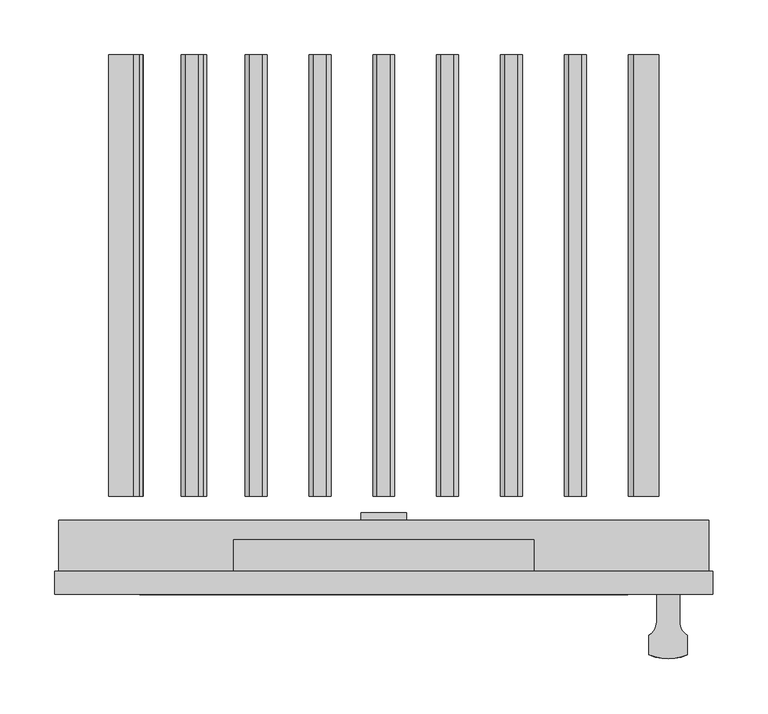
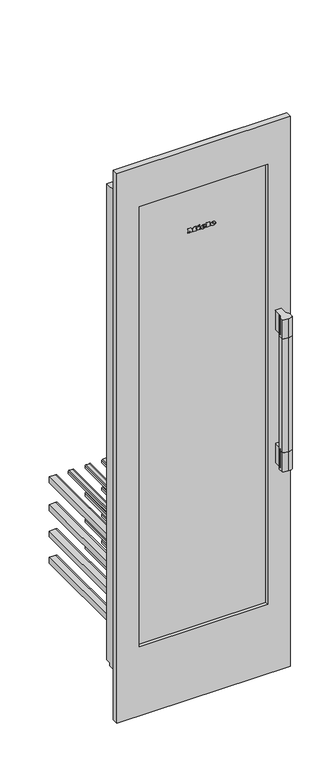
"""IFC4 building model written with IfcOpenShell, lengths in millimetres: proxy geometry, 11503640_USA_KWT2612SF : 36261215_USA_11503640_KWT2612SF."""

from ifc_helpers import new_model, si_unit, point, frame, frame_2d, origin, place, context, project, spatial, polyline, circle_curve, ellipse_curve, trimmed, segment, composite_curve, outline, extrude, faceted_brep, source, transform, mapped, element, save
from ifc_brep_helpers import plane_surface, cylinder_surface, revolved_surface, extruded_surface, advanced_brep


def specialty_equipment_349ab82d(model_context):
    return source(origin(), model_context, "Body", "SolidModel", [
        faceted_brep([(21.0, 75.0, 229.0), (6.5, 75.0, 229.0), (6.5, 75.0, 98.0), (-6.5, 75.0, 98.0), (-6.5, 75.0, 229.0), (-21.0, 75.0, 229.0), (-21.0, 75.0, 267.0), (21.0, 75.0, 267.0), (-21.0, 21.0, 270.0), (-21.0, 21.0, 229.0), (-6.5, 21.0, 229.0), (-6.5, 21.0, 98.0), (6.5, 21.0, 98.0), (6.5, 21.0, 229.0), (21.0, 21.0, 229.0), (21.0, 21.0, 270.0), (21.0, 68.0, 270.0), (-21.0, 68.0, 270.0), (21.0, 68.0, 267.0), (-21.0, 68.0, 267.0)], [[[0, 1, 2, 3, 4, 5, 6, 7]], [[8, 9, 10, 11, 12, 13, 14, 15]], [[8, 15, 16, 17]], [[15, 14, 0, 7, 18, 16]], [[1, 0, 14, 13]], [[2, 1, 13, 12]], [[3, 2, 12, 11]], [[4, 3, 11, 10]], [[5, 4, 10, 9]], [[9, 8, 17, 19, 6, 5]], [[19, 18, 7, 6]], [[18, 19, 17, 16]]]),
        extrude(outline(polyline([(-223.5, 32.0), (223.5, 32.0), (223.5, 12.0), (-223.5, 12.0), (-223.5, 32.0)])), frame((0.0, 0.0, 344.0), z_axis=(0.0, 0.0, 1.0), x_axis=(1.0, 0.0, 0.0)), (0.0, 0.0, 1.0), 1620.0),
        extrude(outline(polyline([(2113.0, 301.5), (2113.0, -301.5), (90.0, -301.5), (90.0, 301.5), (2113.0, 301.5)]), holes=[polyline([(1964.0, 223.5), (344.0, 223.5), (344.0, -223.5), (1964.0, -223.5), (1964.0, 223.5)])]), frame((0.0, 0.0, 0.0), z_axis=(0.0, 1.0, 0.0), x_axis=(0.0, 0.0, 1.0)), (0.0, 0.0, 1.0), 21.0),
        extrude(outline(polyline([(-137.5, 50.0), (137.5, 50.0), (137.5, 21.0), (-137.5, 21.0), (-137.5, 50.0)])), frame((0.0, 0.0, 2034.0), z_axis=(0.0, 0.0, 1.0), x_axis=(1.0, 0.0, 0.0)), (0.0, 0.0, 1.0), 56.0),
        faceted_brep([(-297.5, 68.0, 2034.0), (-297.5, 68.0, 281.0), (-297.5, 50.0, 281.0), (-297.5, 50.0, 270.0), (-297.5, 21.0, 270.0), (-297.5, 21.0, 2034.0), (297.5, 68.0, 2034.0), (297.5, 21.0, 2034.0), (297.5, 21.0, 270.0), (297.5, 50.0, 270.0), (297.5, 50.0, 281.0), (297.5, 68.0, 281.0), (223.5, 21.0, 1964.0), (223.5, 21.0, 344.0), (-223.5, 21.0, 344.0), (-223.5, 21.0, 1964.0), (223.5, 68.0, 344.0), (223.5, 68.0, 1964.0), (-223.5, 68.0, 1964.0), (-223.5, 68.0, 344.0)], [[[0, 1, 2, 3, 4, 5]], [[6, 7, 8, 9, 10, 11]], [[0, 5, 7, 6]], [[5, 4, 8, 7], [12, 13, 14, 15]], [[4, 3, 9, 8]], [[3, 2, 10, 9]], [[2, 1, 11, 10]], [[1, 0, 6, 11], [16, 17, 18, 19]], [[12, 17, 16, 13]], [[13, 16, 19, 14]], [[14, 19, 18, 15]], [[17, 12, 15, 18]]]),
        extrude(outline(composite_curve([segment(trimmed(circle_curve(frame_2d((234.4285714, -24.4390599)), 15.5714286), [point((243.0, -37.4390599))], [point((250.0, -24.4390599))], True, "CARTESIAN"), True, "CONTINUOUS"), segment(polyline([(250.0, -24.4390599), (250.0, 0.0), (271.0, 0.0), (271.0, -24.4390599)]), True, "CONTINUOUS"), segment(trimmed(circle_curve(frame_2d((286.5714286, -24.4390599)), 15.5714286), [point((271.0, -24.4390599))], [point((278.0, -37.4390599))], True, "CARTESIAN"), True, "CONTINUOUS"), segment(polyline([(278.0, -37.4390599), (278.0, -55.0)]), True, "CONTINUOUS"), segment(trimmed(circle_curve(frame_2d((260.5, -18.71875)), 40.28125), [point((278.0, -55.0))], [point((260.5, -59.0))], False, "CARTESIAN"), True, "CONTINUOUS"), segment(trimmed(circle_curve(frame_2d((260.5, -18.71875)), 40.28125), [point((260.5, -59.0))], [point((243.0, -55.0))], False, "CARTESIAN"), True, "CONTINUOUS"), segment(polyline([(243.0, -55.0), (243.0, -37.4390599)]), True, "CONTINUOUS")], self_intersect=False)), frame((0.0, 0.0, 858.0), z_axis=(0.0, 0.0, 1.0), x_axis=(1.0, 0.0, 0.0)), (0.0, 0.0, 1.0), 70.0),
        extrude(outline(composite_curve([segment(trimmed(circle_curve(frame_2d((234.4285714, -24.4390599)), 15.5714286), [point((243.0, -37.4390599))], [point((250.0, -24.4390599))], True, "CARTESIAN"), True, "CONTINUOUS"), segment(polyline([(250.0, -24.4390599), (250.0, 0.0), (271.0, 0.0), (271.0, -24.4390599)]), True, "CONTINUOUS"), segment(trimmed(circle_curve(frame_2d((286.5714286, -24.4390599)), 15.5714286), [point((271.0, -24.4390599))], [point((278.0, -37.4390599))], True, "CARTESIAN"), True, "CONTINUOUS"), segment(polyline([(278.0, -37.4390599), (278.0, -55.0)]), True, "CONTINUOUS"), segment(trimmed(circle_curve(frame_2d((260.5, -18.71875)), 40.28125), [point((278.0, -55.0))], [point((260.5, -59.0))], False, "CARTESIAN"), True, "CONTINUOUS"), segment(trimmed(circle_curve(frame_2d((260.5, -18.71875)), 40.28125), [point((260.5, -59.0))], [point((243.0, -55.0))], False, "CARTESIAN"), True, "CONTINUOUS"), segment(polyline([(243.0, -55.0), (243.0, -37.4390599)]), True, "CONTINUOUS")], self_intersect=False)), frame((0.0, 0.0, 1348.0), z_axis=(0.0, 0.0, 1.0), x_axis=(1.0, 0.0, 0.0)), (0.0, 0.0, 1.0), 70.0),
        extrude(outline(composite_curve([segment(trimmed(circle_curve(frame_2d((234.4285714, -24.4390599)), 15.5714286), [point((243.0, -37.4390599))], [point((244.8599688, -36.0))], True, "CARTESIAN"), True, "CONTINUOUS"), segment(polyline([(244.8599688, -36.0), (276.1400312, -36.0)]), True, "CONTINUOUS"), segment(trimmed(circle_curve(frame_2d((286.5714286, -24.4390599)), 15.5714286), [point((276.1400312, -36.0))], [point((278.0, -37.4390599))], True, "CARTESIAN"), True, "CONTINUOUS"), segment(polyline([(278.0, -37.4390599), (278.0, -55.0)]), True, "CONTINUOUS"), segment(trimmed(circle_curve(frame_2d((260.5, -18.71875)), 40.28125), [point((278.0, -55.0))], [point((260.5, -59.0))], False, "CARTESIAN"), True, "CONTINUOUS"), segment(trimmed(circle_curve(frame_2d((260.5, -18.71875)), 40.28125), [point((260.5, -59.0))], [point((243.0, -55.0))], False, "CARTESIAN"), True, "CONTINUOUS"), segment(polyline([(243.0, -55.0), (243.0, -37.4390599)]), True, "CONTINUOUS")], self_intersect=False)), frame((0.0, 0.0, 928.0), z_axis=(0.0, 0.0, 1.0), x_axis=(1.0, 0.0, 0.0)), (0.0, 0.0, 1.0), 420.0),
        advanced_brep(
        [(38.22, 11.0, 1801.792), (38.22, 11.0, 1803.408), (48.924, 11.0, 1803.408), (30.3, 11.0, 1803.408), (34.7, 11.0, 1798.0), (48.652, 11.0, 1801.792), (43.82, 11.0, 1801.792), (40.012, 11.0, 1800.0), (38.22, 11.0, 1805.456), (38.22, 11.0, 1807.2), (40.956, 11.0, 1807.2), (40.956, 11.0, 1805.456), (38.22, 12.0, 1801.792), (40.012, 12.0, 1800.0), (43.82, 12.0, 1801.792), (48.652, 12.0, 1801.792), (34.7, 12.0, 1798.0), (30.3, 12.0, 1803.408), (48.924, 12.0, 1803.408), (38.22, 12.0, 1803.408), (38.22, 12.0, 1805.456), (40.956, 12.0, 1805.456), (40.956, 12.0, 1807.2), (38.22, 12.0, 1807.2)],
        [
            (0, 1),
            (1, 2),
            (2, 3, ellipse_curve(frame((39.612, 11.0, 1803.408), z_axis=(0.0, -1.0, 0.0), x_axis=(-1.0, 0.0, 0.0)), 9.312, 7.696)),
            (3, 4, circle_curve(frame((36.4920873, 11.0, 1803.952), z_axis=(0.0, -1.0, 0.0), x_axis=(0.0, 0.0, -1.0)), 6.2159376)),
            (4, 5, circle_curve(frame((39.4255872, 11.0, 1808.176), z_axis=(0.0, -1.0, 0.0), x_axis=(0.0, 0.0, -1.0)), 11.2197215)),
            (5, 6),
            (6, 7, circle_curve(frame((40.7941176, 11.0, 1803.28), z_axis=(0.0, 1.0, 0.0), x_axis=(0.0, 0.0, -1.0)), 3.3719591)),
            (7, 0, circle_curve(frame((40.012, 11.0, 1801.792), z_axis=(0.0, 1.0, 0.0), x_axis=(0.0, 0.0, -1.0)), 1.792)),
            (8, 9),
            (9, 10, circle_curve(frame((39.588, 11.0, 1807.2), z_axis=(0.0, 1.0, 0.0), x_axis=(0.0, 0.0, -1.0)), 1.368)),
            (10, 11),
            (11, 8),
            (12, 13, circle_curve(frame((40.012, 12.0, 1801.792), z_axis=(0.0, -1.0, 0.0), x_axis=(0.0, 0.0, -1.0)), 1.792)),
            (13, 14, circle_curve(frame((40.7941176, 12.0, 1803.28), z_axis=(0.0, -1.0, 0.0), x_axis=(0.0, 0.0, -1.0)), 3.3719591)),
            (14, 15),
            (15, 16, circle_curve(frame((39.4255872, 12.0, 1808.176), z_axis=(0.0, 1.0, 0.0), x_axis=(0.0, 0.0, -1.0)), 11.2197215)),
            (16, 17, circle_curve(frame((36.4920873, 12.0, 1803.952), z_axis=(0.0, 1.0, 0.0), x_axis=(0.0, 0.0, -1.0)), 6.2159376)),
            (17, 18, ellipse_curve(frame((39.612, 12.0, 1803.408), z_axis=(0.0, 1.0, 0.0), x_axis=(-1.0, 0.0, 0.0)), 9.312, 7.696)),
            (18, 19),
            (19, 12),
            (20, 21),
            (21, 22),
            (22, 23, circle_curve(frame((39.588, 12.0, 1807.2), z_axis=(0.0, -1.0, 0.0), x_axis=(0.0, 0.0, -1.0)), 1.368)),
            (23, 20),
            (0, 12),
            (19, 1),
            (18, 2),
            (5, 15),
            (14, 6),
            (17, 3),
            (13, 7),
            (16, 4),
            (8, 20),
            (23, 9),
            (22, 10),
            (21, 11),
        ],
        [
            plane_surface(frame((38.22, 11.0, 1803.408), z_axis=(0.0, -1.0, 0.0), x_axis=(0.0, 0.0, 1.0))),
            plane_surface(frame((38.22, 12.0, 1803.408), z_axis=(0.0, 1.0, 0.0), x_axis=(0.0, 0.0, -1.0))),
            plane_surface(frame((38.22, 11.0, 1801.792), z_axis=(1.0, 0.0, 0.0), x_axis=(0.0, 1.0, 0.0))),
            plane_surface(frame((38.22, 11.0, 1803.408), z_axis=(0.0, 0.0, -1.0), x_axis=(0.0, 1.0, 0.0))),
            plane_surface(frame((48.652, 11.0, 1801.792), z_axis=(0.0, 0.0, 1.0), x_axis=(0.0, 1.0, 0.0))),
            extruded_surface(trimmed(ellipse_curve(frame((39.612, 13.0, 1803.408), z_axis=(0.0, -1.0, 0.0), x_axis=(-1.0, 0.0, 0.0)), 9.312, 7.696), [point((48.924, 13.0, 1803.408))], [point((30.3, 13.0, 1803.408))], True, "CARTESIAN"), (0.0, -1.0, 0.0), 1.0),
            revolved_surface(polyline([(40.7941176, 12.0, 1799.9080409), (40.7941176, 11.0, 1799.9080409)]), (40.7941176, 12.0, 1803.28), (0.0, 1.0, 0.0)),
            revolved_surface(polyline([(40.012, 12.0, 1800.0), (40.012, 11.0, 1800.0)]), (40.012, 12.0, 1801.792), (0.0, 1.0, 0.0)),
            cylinder_surface(frame((36.4920873, 12.0, 1803.952), z_axis=(0.0, -1.0, 0.0), x_axis=(0.0, 0.0, -1.0)), 6.2159376),
            cylinder_surface(frame((39.4255872, 12.0, 1808.176), z_axis=(0.0, -1.0, 0.0), x_axis=(0.0, 0.0, -1.0)), 11.2197215),
            plane_surface(frame((38.22, 11.0, 1805.456), z_axis=(1.0, 0.0, 0.0), x_axis=(0.0, 1.0, 0.0))),
            revolved_surface(polyline([(39.588, 12.0, 1805.832), (39.588, 11.0, 1805.832)]), (39.588, 12.0, 1807.2), (0.0, 1.0, 0.0)),
            plane_surface(frame((40.956, 11.0, 1807.2), z_axis=(-1.0, 0.0, 0.0), x_axis=(0.0, 1.0, 0.0))),
            plane_surface(frame((40.956, 11.0, 1805.456), z_axis=(0.0, 0.0, 1.0), x_axis=(0.0, 1.0, 0.0))),
        ],
        [
            (0, [[1, 2, 3, 4, 5, 6, 7, 8], [9, 10, 11, 12]]),
            (1, [[13, 14, 15, 16, 17, 18, 19, 20], [21, 22, 23, 24]]),
            (2, [[-1, 25, -20, 26]]),
            (3, [[-2, -26, -19, 27]]),
            (4, [[-6, 28, -15, 29]]),
            (5, [[-3, -27, -18, 30]]),
            (6, [[-7, -29, -14, 31]]),
            (7, [[-8, -31, -13, -25]]),
            (8, [[-4, -30, -17, 32]]),
            (9, [[-5, -32, -16, -28]]),
            (10, [[-9, 33, -24, 34]]),
            (11, [[-10, -34, -23, 35]]),
            (12, [[-11, -35, -22, 36]]),
            (13, [[-12, -36, -21, -33]]),
        ],
    ),
        advanced_brep(
        [(4.828, 11.0, 1801.792), (4.828, 11.0, 1803.408), (15.532, 11.0, 1803.408), (-3.092, 11.0, 1803.408), (1.308, 11.0, 1798.0), (15.26, 11.0, 1801.792), (10.428, 11.0, 1801.792), (6.62, 11.0, 1800.0), (4.828, 11.0, 1805.456), (4.828, 11.0, 1807.2), (7.564, 11.0, 1807.2), (7.564, 11.0, 1805.456), (4.828, 12.0, 1801.792), (6.62, 12.0, 1800.0), (10.428, 12.0, 1801.792), (15.26, 12.0, 1801.792), (1.308, 12.0, 1798.0), (-3.092, 12.0, 1803.408), (15.532, 12.0, 1803.408), (4.828, 12.0, 1803.408), (4.828, 12.0, 1805.456), (7.564, 12.0, 1805.456), (7.564, 12.0, 1807.2), (4.828, 12.0, 1807.2)],
        [
            (0, 1),
            (1, 2),
            (2, 3, ellipse_curve(frame((6.22, 11.0, 1803.408), z_axis=(0.0, -1.0, 0.0), x_axis=(-1.0, 0.0, 0.0)), 9.312, 7.696)),
            (3, 4, circle_curve(frame((3.1000873, 11.0, 1803.952), z_axis=(0.0, -1.0, 0.0), x_axis=(0.0, 0.0, -1.0)), 6.2159376)),
            (4, 5, circle_curve(frame((6.0335872, 11.0, 1808.176), z_axis=(0.0, -1.0, 0.0), x_axis=(0.0, 0.0, -1.0)), 11.2197215)),
            (5, 6),
            (6, 7, circle_curve(frame((7.4021176, 11.0, 1803.28), z_axis=(0.0, 1.0, 0.0), x_axis=(0.0, 0.0, -1.0)), 3.3719591)),
            (7, 0, circle_curve(frame((6.62, 11.0, 1801.792), z_axis=(0.0, 1.0, 0.0), x_axis=(0.0, 0.0, -1.0)), 1.792)),
            (8, 9),
            (9, 10, circle_curve(frame((6.196, 11.0, 1807.2), z_axis=(0.0, 1.0, 0.0), x_axis=(0.0, 0.0, -1.0)), 1.368)),
            (10, 11),
            (11, 8),
            (12, 13, circle_curve(frame((6.62, 12.0, 1801.792), z_axis=(0.0, -1.0, 0.0), x_axis=(0.0, 0.0, -1.0)), 1.792)),
            (13, 14, circle_curve(frame((7.4021176, 12.0, 1803.28), z_axis=(0.0, -1.0, 0.0), x_axis=(0.0, 0.0, -1.0)), 3.3719591)),
            (14, 15),
            (15, 16, circle_curve(frame((6.0335872, 12.0, 1808.176), z_axis=(0.0, 1.0, 0.0), x_axis=(0.0, 0.0, -1.0)), 11.2197215)),
            (16, 17, circle_curve(frame((3.1000873, 12.0, 1803.952), z_axis=(0.0, 1.0, 0.0), x_axis=(0.0, 0.0, -1.0)), 6.2159376)),
            (17, 18, ellipse_curve(frame((6.22, 12.0, 1803.408), z_axis=(0.0, 1.0, 0.0), x_axis=(-1.0, 0.0, 0.0)), 9.312, 7.696)),
            (18, 19),
            (19, 12),
            (20, 21),
            (21, 22),
            (22, 23, circle_curve(frame((6.196, 12.0, 1807.2), z_axis=(0.0, -1.0, 0.0), x_axis=(0.0, 0.0, -1.0)), 1.368)),
            (23, 20),
            (0, 12),
            (19, 1),
            (18, 2),
            (5, 15),
            (14, 6),
            (17, 3),
            (13, 7),
            (16, 4),
            (8, 20),
            (23, 9),
            (22, 10),
            (21, 11),
        ],
        [
            plane_surface(frame((4.828, 11.0, 1803.408), z_axis=(0.0, -1.0, 0.0), x_axis=(0.0, 0.0, 1.0))),
            plane_surface(frame((4.828, 12.0, 1803.408), z_axis=(0.0, 1.0, 0.0), x_axis=(0.0, 0.0, -1.0))),
            plane_surface(frame((4.828, 11.0, 1801.792), z_axis=(1.0, 0.0, 0.0), x_axis=(0.0, 1.0, 0.0))),
            plane_surface(frame((4.828, 11.0, 1803.408), z_axis=(0.0, 0.0, -1.0), x_axis=(0.0, 1.0, 0.0))),
            plane_surface(frame((15.26, 11.0, 1801.792), z_axis=(0.0, 0.0, 1.0), x_axis=(0.0, 1.0, 0.0))),
            extruded_surface(trimmed(ellipse_curve(frame((6.22, 13.0, 1803.408), z_axis=(0.0, -1.0, 0.0), x_axis=(-1.0, 0.0, 0.0)), 9.312, 7.696), [point((15.532, 13.0, 1803.408))], [point((-3.092, 13.0, 1803.408))], True, "CARTESIAN"), (0.0, -1.0, 0.0), 1.0),
            revolved_surface(polyline([(7.4021176, 12.0, 1799.9080409), (7.4021176, 11.0, 1799.9080409)]), (7.4021176, 12.0, 1803.28), (0.0, 1.0, 0.0)),
            revolved_surface(polyline([(6.62, 12.0, 1800.0), (6.62, 11.0, 1800.0)]), (6.62, 12.0, 1801.792), (0.0, 1.0, 0.0)),
            cylinder_surface(frame((3.1000873, 12.0, 1803.952), z_axis=(0.0, -1.0, 0.0), x_axis=(0.0, 0.0, -1.0)), 6.2159376),
            cylinder_surface(frame((6.0335872, 12.0, 1808.176), z_axis=(0.0, -1.0, 0.0), x_axis=(0.0, 0.0, -1.0)), 11.2197215),
            plane_surface(frame((4.828, 11.0, 1805.456), z_axis=(1.0, 0.0, 0.0), x_axis=(0.0, 1.0, 0.0))),
            revolved_surface(polyline([(6.196, 12.0, 1805.832), (6.196, 11.0, 1805.832)]), (6.196, 12.0, 1807.2), (0.0, 1.0, 0.0)),
            plane_surface(frame((7.564, 11.0, 1807.2), z_axis=(-1.0, 0.0, 0.0), x_axis=(0.0, 1.0, 0.0))),
            plane_surface(frame((7.564, 11.0, 1805.456), z_axis=(0.0, 0.0, 1.0), x_axis=(0.0, 1.0, 0.0))),
        ],
        [
            (0, [[1, 2, 3, 4, 5, 6, 7, 8], [9, 10, 11, 12]]),
            (1, [[13, 14, 15, 16, 17, 18, 19, 20], [21, 22, 23, 24]]),
            (2, [[-1, 25, -20, 26]]),
            (3, [[-2, -26, -19, 27]]),
            (4, [[-6, 28, -15, 29]]),
            (5, [[-3, -27, -18, 30]]),
            (6, [[-7, -29, -14, 31]]),
            (7, [[-8, -31, -13, -25]]),
            (8, [[-4, -30, -17, 32]]),
            (9, [[-5, -32, -16, -28]]),
            (10, [[-9, 33, -24, 34]]),
            (11, [[-10, -34, -23, 35]]),
            (12, [[-11, -35, -22, 36]]),
            (13, [[-12, -36, -21, -33]]),
        ],
    ),
        extrude(outline(polyline([(1813.056, -12.66), (1810.464, -11.444), (1812.992, -6.02), (1815.584, -7.22), (1813.056, -12.66)])), frame((0.0, 11.0, 0.0), z_axis=(0.0, 1.0, 0.0), x_axis=(0.0, 0.0, 1.0)), (0.0, 0.0, 1.0), 1.0),
        extrude(outline(polyline([(1810.112, -16.612), (1807.248, -16.612), (1807.248, -14.708), (1800.688, -14.708), (1800.688, -16.612), (1798.0, -16.612), (1798.0, -3.988), (1800.688, -3.988), (1800.688, -5.844), (1810.112, -5.844), (1810.112, -16.612)])), frame((0.0, 11.0, 0.0), z_axis=(0.0, 1.0, 0.0), x_axis=(0.0, 0.0, 1.0)), (0.0, 0.0, 1.0), 1.0),
        extrude(outline(polyline([(1811.392, 16.428), (1811.392, 18.348), (1800.688, 18.348), (1800.688, 16.428), (1798.0, 16.428), (1798.0, 29.404), (1800.688, 29.404), (1800.688, 27.436), (1814.0, 27.436), (1814.0, 16.428), (1811.392, 16.428)])), frame((0.0, 11.0, 0.0), z_axis=(0.0, 1.0, 0.0), x_axis=(0.0, 0.0, 1.0)), (0.0, 0.0, 1.0), 1.0),
        extrude(outline(polyline([(1811.392, -48.5), (1811.392, -46.564), (1800.688, -46.564), (1800.688, -48.5), (1798.0, -48.5), (1798.0, -41.46), (1800.688, -41.46), (1800.688, -43.38), (1807.4431247, -43.38), (1798.0, -36.228), (1807.8152223, -29.044), (1800.688, -29.044), (1800.688, -31.012), (1798.0, -31.012), (1798.0, -18.244), (1800.688, -18.244), (1800.688, -20.276), (1811.392, -20.276), (1811.392, -18.244), (1814.0, -18.244), (1814.0, -27.988), (1808.0, -32.66), (1814.0, -37.348), (1814.0, -48.5), (1811.392, -48.5)])), frame((0.0, 11.0, 0.0), z_axis=(0.0, 1.0, 0.0), x_axis=(0.0, 0.0, 1.0)), (0.0, 0.0, 1.0), 1.0),
        extrude(outline(composite_curve([segment(polyline([(384.0, -252.0), (362.0, -252.0), (362.0, -229.0)]), True, "CONTINUOUS"), segment(trimmed(circle_curve(frame_2d((370.425484, -229.0)), 8.425484), [point((362.0, -229.0))], [point((370.425484, -220.574516))], False, "CARTESIAN"), True, "CONTINUOUS"), segment(polyline([(370.425484, -220.574516), (375.574516, -220.574516)]), True, "CONTINUOUS"), segment(trimmed(circle_curve(frame_2d((375.574516, -229.0)), 8.425484), [point((375.574516, -220.574516))], [point((384.0, -229.0))], False, "CARTESIAN"), True, "CONTINUOUS"), segment(polyline([(384.0, -229.0), (384.0, -252.0)]), True, "CONTINUOUS")], self_intersect=False)), frame((0.0, 90.0, 0.0), z_axis=(0.0, 1.0, 0.0), x_axis=(0.0, 0.0, 1.0)), (0.0, 0.0, 1.0), 404.0),
        extrude(outline(composite_curve([segment(polyline([(380.0, -182.074516), (372.039218, -182.074516), (372.039218, -162.074516), (380.0, -162.074516)]), True, "CONTINUOUS"), segment(trimmed(circle_curve(frame_2d((380.0, -166.074516)), 4.0), [point((380.0, -162.074516))], [point((384.0, -166.074516))], False, "CARTESIAN"), True, "CONTINUOUS"), segment(polyline([(384.0, -166.074516), (384.0, -178.074516)]), True, "CONTINUOUS"), segment(trimmed(circle_curve(frame_2d((380.0, -178.074516)), 4.0), [point((384.0, -178.074516))], [point((380.0, -182.074516))], False, "CARTESIAN"), True, "CONTINUOUS")], self_intersect=False)), frame((0.0, 90.0, 0.0), z_axis=(0.0, 1.0, 0.0), x_axis=(0.0, 0.0, 1.0)), (0.0, 0.0, 1.0), 404.0),
        extrude(outline(composite_curve([segment(polyline([(384.0, 252.0), (384.0, 232.425484)]), True, "CONTINUOUS"), segment(trimmed(circle_curve(frame_2d((375.574516, 232.425484)), 8.425484), [point((384.0, 232.425484))], [point((375.574516, 224.0))], False, "CARTESIAN"), True, "CONTINUOUS"), segment(polyline([(375.574516, 224.0), (367.0, 224.0)]), True, "CONTINUOUS"), segment(trimmed(circle_curve(frame_2d((367.0, 229.0)), 5.0), [point((367.0, 224.0))], [point((362.0, 229.0))], False, "CARTESIAN"), True, "CONTINUOUS"), segment(polyline([(362.0, 229.0), (362.0, 252.0), (384.0, 252.0)]), True, "CONTINUOUS")], self_intersect=False)), frame((0.0, 90.0, 0.0), z_axis=(0.0, 1.0, 0.0), x_axis=(0.0, 0.0, 1.0)), (0.0, 0.0, 1.0), 404.0),
        extrude(outline(composite_curve([segment(polyline([(380.0, -127.0), (372.039218, -127.0), (372.039218, -107.0), (380.0, -107.0)]), True, "CONTINUOUS"), segment(trimmed(circle_curve(frame_2d((380.0, -111.0)), 4.0), [point((380.0, -107.0))], [point((384.0, -111.0))], False, "CARTESIAN"), True, "CONTINUOUS"), segment(polyline([(384.0, -111.0), (384.0, -123.0)]), True, "CONTINUOUS"), segment(trimmed(circle_curve(frame_2d((380.0, -123.0)), 4.0), [point((384.0, -123.0))], [point((380.0, -127.0))], False, "CARTESIAN"), True, "CONTINUOUS")], self_intersect=False)), frame((0.0, 90.0, 0.0), z_axis=(0.0, 1.0, 0.0), x_axis=(0.0, 0.0, 1.0)), (0.0, 0.0, 1.0), 404.0),
        extrude(outline(composite_curve([segment(polyline([(380.0, -68.5), (372.039218, -68.5), (372.039218, -48.5), (380.0, -48.5)]), True, "CONTINUOUS"), segment(trimmed(circle_curve(frame_2d((380.0, -52.5)), 4.0), [point((380.0, -48.5))], [point((384.0, -52.5))], False, "CARTESIAN"), True, "CONTINUOUS"), segment(polyline([(384.0, -52.5), (384.0, -64.5)]), True, "CONTINUOUS"), segment(trimmed(circle_curve(frame_2d((380.0, -64.5)), 4.0), [point((384.0, -64.5))], [point((380.0, -68.5))], False, "CARTESIAN"), True, "CONTINUOUS")], self_intersect=False)), frame((0.0, 90.0, 0.0), z_axis=(0.0, 1.0, 0.0), x_axis=(0.0, 0.0, 1.0)), (0.0, 0.0, 1.0), 404.0),
        extrude(outline(composite_curve([segment(polyline([(380.0, -10.0), (372.039218, -10.0), (372.039218, 10.0), (380.0, 10.0)]), True, "CONTINUOUS"), segment(trimmed(circle_curve(frame_2d((380.0, 6.0)), 4.0), [point((380.0, 10.0))], [point((384.0, 6.0))], False, "CARTESIAN"), True, "CONTINUOUS"), segment(polyline([(384.0, 6.0), (384.0, -6.0)]), True, "CONTINUOUS"), segment(trimmed(circle_curve(frame_2d((380.0, -6.0)), 4.0), [point((384.0, -6.0))], [point((380.0, -10.0))], False, "CARTESIAN"), True, "CONTINUOUS")], self_intersect=False)), frame((0.0, 90.0, 0.0), z_axis=(0.0, 1.0, 0.0), x_axis=(0.0, 0.0, 1.0)), (0.0, 0.0, 1.0), 404.0),
        extrude(outline(composite_curve([segment(polyline([(380.0, 48.5), (372.039218, 48.5), (372.039218, 68.5), (380.0, 68.5)]), True, "CONTINUOUS"), segment(trimmed(circle_curve(frame_2d((380.0, 64.5)), 4.0), [point((380.0, 68.5))], [point((384.0, 64.5))], False, "CARTESIAN"), True, "CONTINUOUS"), segment(polyline([(384.0, 64.5), (384.0, 52.5)]), True, "CONTINUOUS"), segment(trimmed(circle_curve(frame_2d((380.0, 52.5)), 4.0), [point((384.0, 52.5))], [point((380.0, 48.5))], False, "CARTESIAN"), True, "CONTINUOUS")], self_intersect=False)), frame((0.0, 90.0, 0.0), z_axis=(0.0, 1.0, 0.0), x_axis=(0.0, 0.0, 1.0)), (0.0, 0.0, 1.0), 404.0),
        extrude(outline(composite_curve([segment(polyline([(380.0, 107.0), (372.039218, 107.0), (372.039218, 127.0), (380.0, 127.0)]), True, "CONTINUOUS"), segment(trimmed(circle_curve(frame_2d((380.0, 123.0)), 4.0), [point((380.0, 127.0))], [point((384.0, 123.0))], False, "CARTESIAN"), True, "CONTINUOUS"), segment(polyline([(384.0, 123.0), (384.0, 111.0)]), True, "CONTINUOUS"), segment(trimmed(circle_curve(frame_2d((380.0, 111.0)), 4.0), [point((384.0, 111.0))], [point((380.0, 107.0))], False, "CARTESIAN"), True, "CONTINUOUS")], self_intersect=False)), frame((0.0, 90.0, 0.0), z_axis=(0.0, 1.0, 0.0), x_axis=(0.0, 0.0, 1.0)), (0.0, 0.0, 1.0), 404.0),
        extrude(outline(composite_curve([segment(polyline([(380.0, 165.5), (372.039218, 165.5), (372.039218, 185.5), (380.0, 185.5)]), True, "CONTINUOUS"), segment(trimmed(circle_curve(frame_2d((380.0, 181.5)), 4.0), [point((380.0, 185.5))], [point((384.0, 181.5))], False, "CARTESIAN"), True, "CONTINUOUS"), segment(polyline([(384.0, 181.5), (384.0, 169.5)]), True, "CONTINUOUS"), segment(trimmed(circle_curve(frame_2d((380.0, 169.5)), 4.0), [point((384.0, 169.5))], [point((380.0, 165.5))], False, "CARTESIAN"), True, "CONTINUOUS")], self_intersect=False)), frame((0.0, 90.0, 0.0), z_axis=(0.0, 1.0, 0.0), x_axis=(0.0, 0.0, 1.0)), (0.0, 0.0, 1.0), 404.0),
        extrude(outline(composite_curve([segment(polyline([(481.0, -252.0), (459.0, -252.0), (459.0, -229.0)]), True, "CONTINUOUS"), segment(trimmed(circle_curve(frame_2d((467.4449316, -229.0)), 8.4449316), [point((459.0, -229.0))], [point((467.4449316, -220.5550684))], False, "CARTESIAN"), True, "CONTINUOUS"), segment(polyline([(467.4449316, -220.5550684), (472.5550684, -220.5550684)]), True, "CONTINUOUS"), segment(trimmed(circle_curve(frame_2d((472.5550684, -229.0)), 8.4449316), [point((472.5550684, -220.5550684))], [point((481.0, -229.0))], False, "CARTESIAN"), True, "CONTINUOUS"), segment(polyline([(481.0, -229.0), (481.0, -252.0)]), True, "CONTINUOUS")], self_intersect=False)), frame((0.0, 90.0, 0.0), z_axis=(0.0, 1.0, 0.0), x_axis=(0.0, 0.0, 1.0)), (0.0, 0.0, 1.0), 404.0),
        extrude(outline(composite_curve([segment(polyline([(477.0, -182.0550684), (469.039218, -182.0550684), (469.039218, -162.0550684), (477.0, -162.0550684)]), True, "CONTINUOUS"), segment(trimmed(circle_curve(frame_2d((477.0, -166.0550684)), 4.0), [point((477.0, -162.0550684))], [point((481.0, -166.0550684))], False, "CARTESIAN"), True, "CONTINUOUS"), segment(polyline([(481.0, -166.0550684), (481.0, -178.0550684)]), True, "CONTINUOUS"), segment(trimmed(circle_curve(frame_2d((477.0, -178.0550684)), 4.0), [point((481.0, -178.0550684))], [point((477.0, -182.0550684))], False, "CARTESIAN"), True, "CONTINUOUS")], self_intersect=False)), frame((0.0, 90.0, 0.0), z_axis=(0.0, 1.0, 0.0), x_axis=(0.0, 0.0, 1.0)), (0.0, 0.0, 1.0), 404.0),
        extrude(outline(composite_curve([segment(polyline([(481.0, 252.0), (481.0, 232.4449316)]), True, "CONTINUOUS"), segment(trimmed(circle_curve(frame_2d((472.5550684, 232.4449316)), 8.4449316), [point((481.0, 232.4449316))], [point((472.5550684, 224.0))], False, "CARTESIAN"), True, "CONTINUOUS"), segment(polyline([(472.5550684, 224.0), (464.0, 224.0)]), True, "CONTINUOUS"), segment(trimmed(circle_curve(frame_2d((464.0, 229.0)), 5.0), [point((464.0, 224.0))], [point((459.0, 229.0))], False, "CARTESIAN"), True, "CONTINUOUS"), segment(polyline([(459.0, 229.0), (459.0, 252.0), (481.0, 252.0)]), True, "CONTINUOUS")], self_intersect=False)), frame((0.0, 90.0, 0.0), z_axis=(0.0, 1.0, 0.0), x_axis=(0.0, 0.0, 1.0)), (0.0, 0.0, 1.0), 404.0),
        extrude(outline(composite_curve([segment(polyline([(477.0, -127.0), (469.039218, -127.0), (469.039218, -107.0), (477.0, -107.0)]), True, "CONTINUOUS"), segment(trimmed(circle_curve(frame_2d((477.0, -111.0)), 4.0), [point((477.0, -107.0))], [point((481.0, -111.0))], False, "CARTESIAN"), True, "CONTINUOUS"), segment(polyline([(481.0, -111.0), (481.0, -123.0)]), True, "CONTINUOUS"), segment(trimmed(circle_curve(frame_2d((477.0, -123.0)), 4.0), [point((481.0, -123.0))], [point((477.0, -127.0))], False, "CARTESIAN"), True, "CONTINUOUS")], self_intersect=False)), frame((0.0, 90.0, 0.0), z_axis=(0.0, 1.0, 0.0), x_axis=(0.0, 0.0, 1.0)), (0.0, 0.0, 1.0), 404.0),
        extrude(outline(composite_curve([segment(polyline([(477.0, -68.5), (469.039218, -68.5), (469.039218, -48.5), (477.0, -48.5)]), True, "CONTINUOUS"), segment(trimmed(circle_curve(frame_2d((477.0, -52.5)), 4.0), [point((477.0, -48.5))], [point((481.0, -52.5))], False, "CARTESIAN"), True, "CONTINUOUS"), segment(polyline([(481.0, -52.5), (481.0, -64.5)]), True, "CONTINUOUS"), segment(trimmed(circle_curve(frame_2d((477.0, -64.5)), 4.0), [point((481.0, -64.5))], [point((477.0, -68.5))], False, "CARTESIAN"), True, "CONTINUOUS")], self_intersect=False)), frame((0.0, 90.0, 0.0), z_axis=(0.0, 1.0, 0.0), x_axis=(0.0, 0.0, 1.0)), (0.0, 0.0, 1.0), 404.0),
        extrude(outline(composite_curve([segment(polyline([(477.0, -10.0), (469.039218, -10.0), (469.039218, 10.0), (477.0, 10.0)]), True, "CONTINUOUS"), segment(trimmed(circle_curve(frame_2d((477.0, 6.0)), 4.0), [point((477.0, 10.0))], [point((481.0, 6.0))], False, "CARTESIAN"), True, "CONTINUOUS"), segment(polyline([(481.0, 6.0), (481.0, -6.0)]), True, "CONTINUOUS"), segment(trimmed(circle_curve(frame_2d((477.0, -6.0)), 4.0), [point((481.0, -6.0))], [point((477.0, -10.0))], False, "CARTESIAN"), True, "CONTINUOUS")], self_intersect=False)), frame((0.0, 90.0, 0.0), z_axis=(0.0, 1.0, 0.0), x_axis=(0.0, 0.0, 1.0)), (0.0, 0.0, 1.0), 404.0),
        extrude(outline(composite_curve([segment(polyline([(477.0, 48.5), (469.039218, 48.5), (469.039218, 68.5), (477.0, 68.5)]), True, "CONTINUOUS"), segment(trimmed(circle_curve(frame_2d((477.0, 64.5)), 4.0), [point((477.0, 68.5))], [point((481.0, 64.5))], False, "CARTESIAN"), True, "CONTINUOUS"), segment(polyline([(481.0, 64.5), (481.0, 52.5)]), True, "CONTINUOUS"), segment(trimmed(circle_curve(frame_2d((477.0, 52.5)), 4.0), [point((481.0, 52.5))], [point((477.0, 48.5))], False, "CARTESIAN"), True, "CONTINUOUS")], self_intersect=False)), frame((0.0, 90.0, 0.0), z_axis=(0.0, 1.0, 0.0), x_axis=(0.0, 0.0, 1.0)), (0.0, 0.0, 1.0), 404.0),
        extrude(outline(composite_curve([segment(polyline([(477.0, 107.0), (469.039218, 107.0), (469.039218, 127.0), (477.0, 127.0)]), True, "CONTINUOUS"), segment(trimmed(circle_curve(frame_2d((477.0, 123.0)), 4.0), [point((477.0, 127.0))], [point((481.0, 123.0))], False, "CARTESIAN"), True, "CONTINUOUS"), segment(polyline([(481.0, 123.0), (481.0, 111.0)]), True, "CONTINUOUS"), segment(trimmed(circle_curve(frame_2d((477.0, 111.0)), 4.0), [point((481.0, 111.0))], [point((477.0, 107.0))], False, "CARTESIAN"), True, "CONTINUOUS")], self_intersect=False)), frame((0.0, 90.0, 0.0), z_axis=(0.0, 1.0, 0.0), x_axis=(0.0, 0.0, 1.0)), (0.0, 0.0, 1.0), 404.0),
        extrude(outline(composite_curve([segment(polyline([(477.0, 165.5), (469.039218, 165.5), (469.039218, 185.5), (477.0, 185.5)]), True, "CONTINUOUS"), segment(trimmed(circle_curve(frame_2d((477.0, 181.5)), 4.0), [point((477.0, 185.5))], [point((481.0, 181.5))], False, "CARTESIAN"), True, "CONTINUOUS"), segment(polyline([(481.0, 181.5), (481.0, 169.5)]), True, "CONTINUOUS"), segment(trimmed(circle_curve(frame_2d((477.0, 169.5)), 4.0), [point((481.0, 169.5))], [point((477.0, 165.5))], False, "CARTESIAN"), True, "CONTINUOUS")], self_intersect=False)), frame((0.0, 90.0, 0.0), z_axis=(0.0, 1.0, 0.0), x_axis=(0.0, 0.0, 1.0)), (0.0, 0.0, 1.0), 404.0),
        extrude(outline(composite_curve([segment(polyline([(578.0, -252.0), (556.0, -252.0), (556.0, -229.0)]), True, "CONTINUOUS"), segment(trimmed(circle_curve(frame_2d((564.119775, -229.0)), 8.119775), [point((556.0, -229.0))], [point((564.119775, -220.880225))], False, "CARTESIAN"), True, "CONTINUOUS"), segment(polyline([(564.119775, -220.880225), (569.880225, -220.880225)]), True, "CONTINUOUS"), segment(trimmed(circle_curve(frame_2d((569.880225, -229.0)), 8.119775), [point((569.880225, -220.880225))], [point((578.0, -229.0))], False, "CARTESIAN"), True, "CONTINUOUS"), segment(polyline([(578.0, -229.0), (578.0, -252.0)]), True, "CONTINUOUS")], self_intersect=False)), frame((0.0, 90.0, 0.0), z_axis=(0.0, 1.0, 0.0), x_axis=(0.0, 0.0, 1.0)), (0.0, 0.0, 1.0), 404.0),
        extrude(outline(composite_curve([segment(polyline([(574.0, -182.380225), (566.039218, -182.380225), (566.039218, -162.380225), (574.0, -162.380225)]), True, "CONTINUOUS"), segment(trimmed(circle_curve(frame_2d((574.0, -166.380225)), 4.0), [point((574.0, -162.380225))], [point((578.0, -166.380225))], False, "CARTESIAN"), True, "CONTINUOUS"), segment(polyline([(578.0, -166.380225), (578.0, -178.380225)]), True, "CONTINUOUS"), segment(trimmed(circle_curve(frame_2d((574.0, -178.380225)), 4.0), [point((578.0, -178.380225))], [point((574.0, -182.380225))], False, "CARTESIAN"), True, "CONTINUOUS")], self_intersect=False)), frame((0.0, 90.0, 0.0), z_axis=(0.0, 1.0, 0.0), x_axis=(0.0, 0.0, 1.0)), (0.0, 0.0, 1.0), 404.0),
        extrude(outline(composite_curve([segment(polyline([(578.0, 252.0), (578.0, 232.119775)]), True, "CONTINUOUS"), segment(trimmed(circle_curve(frame_2d((569.880225, 232.119775)), 8.119775), [point((578.0, 232.119775))], [point((569.880225, 224.0))], False, "CARTESIAN"), True, "CONTINUOUS"), segment(polyline([(569.880225, 224.0), (561.0, 224.0)]), True, "CONTINUOUS"), segment(trimmed(circle_curve(frame_2d((561.0, 229.0)), 5.0), [point((561.0, 224.0))], [point((556.0, 229.0))], False, "CARTESIAN"), True, "CONTINUOUS"), segment(polyline([(556.0, 229.0), (556.0, 252.0), (578.0, 252.0)]), True, "CONTINUOUS")], self_intersect=False)), frame((0.0, 90.0, 0.0), z_axis=(0.0, 1.0, 0.0), x_axis=(0.0, 0.0, 1.0)), (0.0, 0.0, 1.0), 404.0),
        extrude(outline(composite_curve([segment(polyline([(574.0, -127.0), (566.039218, -127.0), (566.039218, -107.0), (574.0, -107.0)]), True, "CONTINUOUS"), segment(trimmed(circle_curve(frame_2d((574.0, -111.0)), 4.0), [point((574.0, -107.0))], [point((578.0, -111.0))], False, "CARTESIAN"), True, "CONTINUOUS"), segment(polyline([(578.0, -111.0), (578.0, -123.0)]), True, "CONTINUOUS"), segment(trimmed(circle_curve(frame_2d((574.0, -123.0)), 4.0), [point((578.0, -123.0))], [point((574.0, -127.0))], False, "CARTESIAN"), True, "CONTINUOUS")], self_intersect=False)), frame((0.0, 90.0, 0.0), z_axis=(0.0, 1.0, 0.0), x_axis=(0.0, 0.0, 1.0)), (0.0, 0.0, 1.0), 404.0),
        extrude(outline(composite_curve([segment(polyline([(574.0, -68.5), (566.039218, -68.5), (566.039218, -48.5), (574.0, -48.5)]), True, "CONTINUOUS"), segment(trimmed(circle_curve(frame_2d((574.0, -52.5)), 4.0), [point((574.0, -48.5))], [point((578.0, -52.5))], False, "CARTESIAN"), True, "CONTINUOUS"), segment(polyline([(578.0, -52.5), (578.0, -64.5)]), True, "CONTINUOUS"), segment(trimmed(circle_curve(frame_2d((574.0, -64.5)), 4.0), [point((578.0, -64.5))], [point((574.0, -68.5))], False, "CARTESIAN"), True, "CONTINUOUS")], self_intersect=False)), frame((0.0, 90.0, 0.0), z_axis=(0.0, 1.0, 0.0), x_axis=(0.0, 0.0, 1.0)), (0.0, 0.0, 1.0), 404.0),
        extrude(outline(composite_curve([segment(polyline([(574.0, -10.0), (566.039218, -10.0), (566.039218, 10.0), (574.0, 10.0)]), True, "CONTINUOUS"), segment(trimmed(circle_curve(frame_2d((574.0, 6.0)), 4.0), [point((574.0, 10.0))], [point((578.0, 6.0))], False, "CARTESIAN"), True, "CONTINUOUS"), segment(polyline([(578.0, 6.0), (578.0, -6.0)]), True, "CONTINUOUS"), segment(trimmed(circle_curve(frame_2d((574.0, -6.0)), 4.0), [point((578.0, -6.0))], [point((574.0, -10.0))], False, "CARTESIAN"), True, "CONTINUOUS")], self_intersect=False)), frame((0.0, 90.0, 0.0), z_axis=(0.0, 1.0, 0.0), x_axis=(0.0, 0.0, 1.0)), (0.0, 0.0, 1.0), 404.0),
        extrude(outline(composite_curve([segment(polyline([(574.0, 48.5), (566.039218, 48.5), (566.039218, 68.5), (574.0, 68.5)]), True, "CONTINUOUS"), segment(trimmed(circle_curve(frame_2d((574.0, 64.5)), 4.0), [point((574.0, 68.5))], [point((578.0, 64.5))], False, "CARTESIAN"), True, "CONTINUOUS"), segment(polyline([(578.0, 64.5), (578.0, 52.5)]), True, "CONTINUOUS"), segment(trimmed(circle_curve(frame_2d((574.0, 52.5)), 4.0), [point((578.0, 52.5))], [point((574.0, 48.5))], False, "CARTESIAN"), True, "CONTINUOUS")], self_intersect=False)), frame((0.0, 90.0, 0.0), z_axis=(0.0, 1.0, 0.0), x_axis=(0.0, 0.0, 1.0)), (0.0, 0.0, 1.0), 404.0),
        extrude(outline(composite_curve([segment(polyline([(574.0, 107.0), (566.039218, 107.0), (566.039218, 127.0), (574.0, 127.0)]), True, "CONTINUOUS"), segment(trimmed(circle_curve(frame_2d((574.0, 123.0)), 4.0), [point((574.0, 127.0))], [point((578.0, 123.0))], False, "CARTESIAN"), True, "CONTINUOUS"), segment(polyline([(578.0, 123.0), (578.0, 111.0)]), True, "CONTINUOUS"), segment(trimmed(circle_curve(frame_2d((574.0, 111.0)), 4.0), [point((578.0, 111.0))], [point((574.0, 107.0))], False, "CARTESIAN"), True, "CONTINUOUS")], self_intersect=False)), frame((0.0, 90.0, 0.0), z_axis=(0.0, 1.0, 0.0), x_axis=(0.0, 0.0, 1.0)), (0.0, 0.0, 1.0), 404.0),
        extrude(outline(composite_curve([segment(polyline([(574.0, 165.5), (566.039218, 165.5), (566.039218, 185.5), (574.0, 185.5)]), True, "CONTINUOUS"), segment(trimmed(circle_curve(frame_2d((574.0, 181.5)), 4.0), [point((574.0, 185.5))], [point((578.0, 181.5))], False, "CARTESIAN"), True, "CONTINUOUS"), segment(polyline([(578.0, 181.5), (578.0, 169.5)]), True, "CONTINUOUS"), segment(trimmed(circle_curve(frame_2d((574.0, 169.5)), 4.0), [point((578.0, 169.5))], [point((574.0, 165.5))], False, "CARTESIAN"), True, "CONTINUOUS")], self_intersect=False)), frame((0.0, 90.0, 0.0), z_axis=(0.0, 1.0, 0.0), x_axis=(0.0, 0.0, 1.0)), (0.0, 0.0, 1.0), 404.0),
        extrude(outline(composite_curve([segment(polyline([(680.0, -252.0), (658.0, -252.0), (658.0, -229.0)]), True, "CONTINUOUS"), segment(trimmed(circle_curve(frame_2d((663.0, -229.0)), 5.0), [point((658.0, -229.0))], [point((663.0, -224.0))], False, "CARTESIAN"), True, "CONTINUOUS"), segment(polyline([(663.0, -224.0), (675.0, -224.0)]), True, "CONTINUOUS"), segment(trimmed(circle_curve(frame_2d((675.0, -229.0)), 5.0), [point((675.0, -224.0))], [point((680.0, -229.0))], False, "CARTESIAN"), True, "CONTINUOUS"), segment(polyline([(680.0, -229.0), (680.0, -252.0)]), True, "CONTINUOUS")], self_intersect=False)), frame((0.0, 90.0, 0.0), z_axis=(0.0, 1.0, 0.0), x_axis=(0.0, 0.0, 1.0)), (0.0, 0.0, 1.0), 404.0),
        extrude(outline(composite_curve([segment(polyline([(676.0, -185.5), (668.039218, -185.5), (668.039218, -165.5), (676.0, -165.5)]), True, "CONTINUOUS"), segment(trimmed(circle_curve(frame_2d((676.0, -169.5)), 4.0), [point((676.0, -165.5))], [point((680.0, -169.5))], False, "CARTESIAN"), True, "CONTINUOUS"), segment(polyline([(680.0, -169.5), (680.0, -181.5)]), True, "CONTINUOUS"), segment(trimmed(circle_curve(frame_2d((676.0, -181.5)), 4.0), [point((680.0, -181.5))], [point((676.0, -185.5))], False, "CARTESIAN"), True, "CONTINUOUS")], self_intersect=False)), frame((0.0, 90.0, 0.0), z_axis=(0.0, 1.0, 0.0), x_axis=(0.0, 0.0, 1.0)), (0.0, 0.0, 1.0), 404.0),
        extrude(outline(composite_curve([segment(polyline([(680.0, 252.0), (680.0, 229.0)]), True, "CONTINUOUS"), segment(trimmed(circle_curve(frame_2d((675.0, 229.0)), 5.0), [point((680.0, 229.0))], [point((675.0, 224.0))], False, "CARTESIAN"), True, "CONTINUOUS"), segment(polyline([(675.0, 224.0), (663.0, 224.0)]), True, "CONTINUOUS"), segment(trimmed(circle_curve(frame_2d((663.0, 229.0)), 5.0), [point((663.0, 224.0))], [point((658.0, 229.0))], False, "CARTESIAN"), True, "CONTINUOUS"), segment(polyline([(658.0, 229.0), (658.0, 252.0), (680.0, 252.0)]), True, "CONTINUOUS")], self_intersect=False)), frame((0.0, 90.0, 0.0), z_axis=(0.0, 1.0, 0.0), x_axis=(0.0, 0.0, 1.0)), (0.0, 0.0, 1.0), 404.0),
        extrude(outline(composite_curve([segment(polyline([(676.0, -127.0), (668.039218, -127.0), (668.039218, -107.0), (676.0, -107.0)]), True, "CONTINUOUS"), segment(trimmed(circle_curve(frame_2d((676.0, -111.0)), 4.0), [point((676.0, -107.0))], [point((680.0, -111.0))], False, "CARTESIAN"), True, "CONTINUOUS"), segment(polyline([(680.0, -111.0), (680.0, -123.0)]), True, "CONTINUOUS"), segment(trimmed(circle_curve(frame_2d((676.0, -123.0)), 4.0), [point((680.0, -123.0))], [point((676.0, -127.0))], False, "CARTESIAN"), True, "CONTINUOUS")], self_intersect=False)), frame((0.0, 90.0, 0.0), z_axis=(0.0, 1.0, 0.0), x_axis=(0.0, 0.0, 1.0)), (0.0, 0.0, 1.0), 404.0),
        extrude(outline(composite_curve([segment(polyline([(676.0, -68.5), (668.039218, -68.5), (668.039218, -48.5), (676.0, -48.5)]), True, "CONTINUOUS"), segment(trimmed(circle_curve(frame_2d((676.0, -52.5)), 4.0), [point((676.0, -48.5))], [point((680.0, -52.5))], False, "CARTESIAN"), True, "CONTINUOUS"), segment(polyline([(680.0, -52.5), (680.0, -64.5)]), True, "CONTINUOUS"), segment(trimmed(circle_curve(frame_2d((676.0, -64.5)), 4.0), [point((680.0, -64.5))], [point((676.0, -68.5))], False, "CARTESIAN"), True, "CONTINUOUS")], self_intersect=False)), frame((0.0, 90.0, 0.0), z_axis=(0.0, 1.0, 0.0), x_axis=(0.0, 0.0, 1.0)), (0.0, 0.0, 1.0), 404.0),
        extrude(outline(composite_curve([segment(polyline([(676.0, -10.0), (668.039218, -10.0), (668.039218, 10.0), (676.0, 10.0)]), True, "CONTINUOUS"), segment(trimmed(circle_curve(frame_2d((676.0, 6.0)), 4.0), [point((676.0, 10.0))], [point((680.0, 6.0))], False, "CARTESIAN"), True, "CONTINUOUS"), segment(polyline([(680.0, 6.0), (680.0, -6.0)]), True, "CONTINUOUS"), segment(trimmed(circle_curve(frame_2d((676.0, -6.0)), 4.0), [point((680.0, -6.0))], [point((676.0, -10.0))], False, "CARTESIAN"), True, "CONTINUOUS")], self_intersect=False)), frame((0.0, 90.0, 0.0), z_axis=(0.0, 1.0, 0.0), x_axis=(0.0, 0.0, 1.0)), (0.0, 0.0, 1.0), 404.0),
        extrude(outline(composite_curve([segment(polyline([(676.0, 48.5), (668.039218, 48.5), (668.039218, 68.5), (676.0, 68.5)]), True, "CONTINUOUS"), segment(trimmed(circle_curve(frame_2d((676.0, 64.5)), 4.0), [point((676.0, 68.5))], [point((680.0, 64.5))], False, "CARTESIAN"), True, "CONTINUOUS"), segment(polyline([(680.0, 64.5), (680.0, 52.5)]), True, "CONTINUOUS"), segment(trimmed(circle_curve(frame_2d((676.0, 52.5)), 4.0), [point((680.0, 52.5))], [point((676.0, 48.5))], False, "CARTESIAN"), True, "CONTINUOUS")], self_intersect=False)), frame((0.0, 90.0, 0.0), z_axis=(0.0, 1.0, 0.0), x_axis=(0.0, 0.0, 1.0)), (0.0, 0.0, 1.0), 404.0),
        extrude(outline(composite_curve([segment(polyline([(676.0, 107.0), (668.039218, 107.0), (668.039218, 127.0), (676.0, 127.0)]), True, "CONTINUOUS"), segment(trimmed(circle_curve(frame_2d((676.0, 123.0)), 4.0), [point((676.0, 127.0))], [point((680.0, 123.0))], False, "CARTESIAN"), True, "CONTINUOUS"), segment(polyline([(680.0, 123.0), (680.0, 111.0)]), True, "CONTINUOUS"), segment(trimmed(circle_curve(frame_2d((676.0, 111.0)), 4.0), [point((680.0, 111.0))], [point((676.0, 107.0))], False, "CARTESIAN"), True, "CONTINUOUS")], self_intersect=False)), frame((0.0, 90.0, 0.0), z_axis=(0.0, 1.0, 0.0), x_axis=(0.0, 0.0, 1.0)), (0.0, 0.0, 1.0), 404.0),
        extrude(outline(composite_curve([segment(polyline([(676.0, 165.5), (668.039218, 165.5), (668.039218, 185.5), (676.0, 185.5)]), True, "CONTINUOUS"), segment(trimmed(circle_curve(frame_2d((676.0, 181.5)), 4.0), [point((676.0, 185.5))], [point((680.0, 181.5))], False, "CARTESIAN"), True, "CONTINUOUS"), segment(polyline([(680.0, 181.5), (680.0, 169.5)]), True, "CONTINUOUS"), segment(trimmed(circle_curve(frame_2d((676.0, 169.5)), 4.0), [point((680.0, 169.5))], [point((676.0, 165.5))], False, "CARTESIAN"), True, "CONTINUOUS")], self_intersect=False)), frame((0.0, 90.0, 0.0), z_axis=(0.0, 1.0, 0.0), x_axis=(0.0, 0.0, 1.0)), (0.0, 0.0, 1.0), 404.0),
    ])


if __name__ == "__main__":
    model = new_model("IFC4")
    model_context = context("Model", 3, world=origin())
    ifc_project = project(units=[si_unit("LENGTHUNIT", "METRE", prefix="MILLI")], contexts=[model_context])
    site = spatial("IfcSite", under=ifc_project)
    building = spatial("IfcBuilding", under=site)
    placement = place(None, origin())
    specialty_equipment_shape = specialty_equipment_349ab82d(model_context)
    element("IfcBuildingElementProxy", 1, Name="11503640_USA_KWT2612SF : 36261215_USA_11503640_KWT2612SF", ObjectType="11503640_USA_KWT2612SF : 36261215_USA_11503640_KWT2612SF", at=placement, inside=building, context=model_context, shape_type="MappedRepresentation", body=[
        mapped(specialty_equipment_shape, transform((0.0, 0.0, 0.0), x_axis=(1.0, 0.0, 0.0), y_axis=(0.0, 1.0, 0.0), z_axis=(0.0, 0.0, 1.0))),
    ])
    save(model, "model.ifc")
